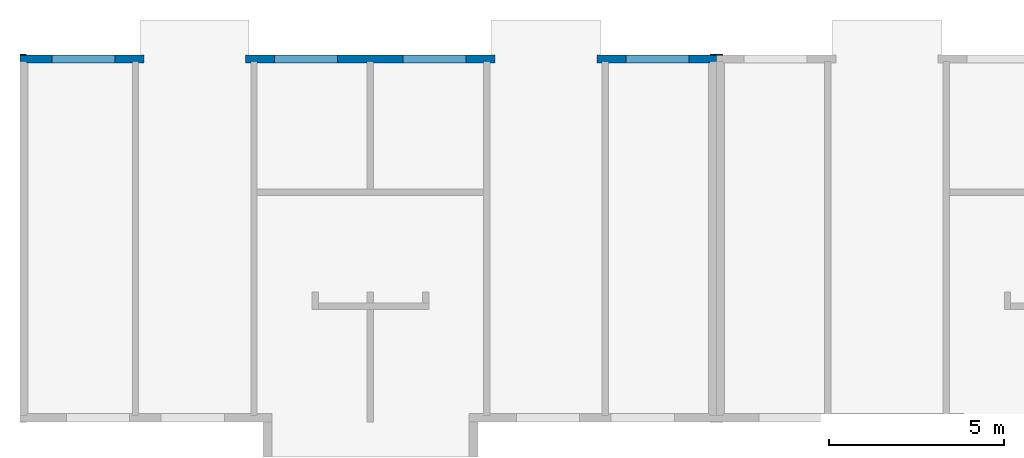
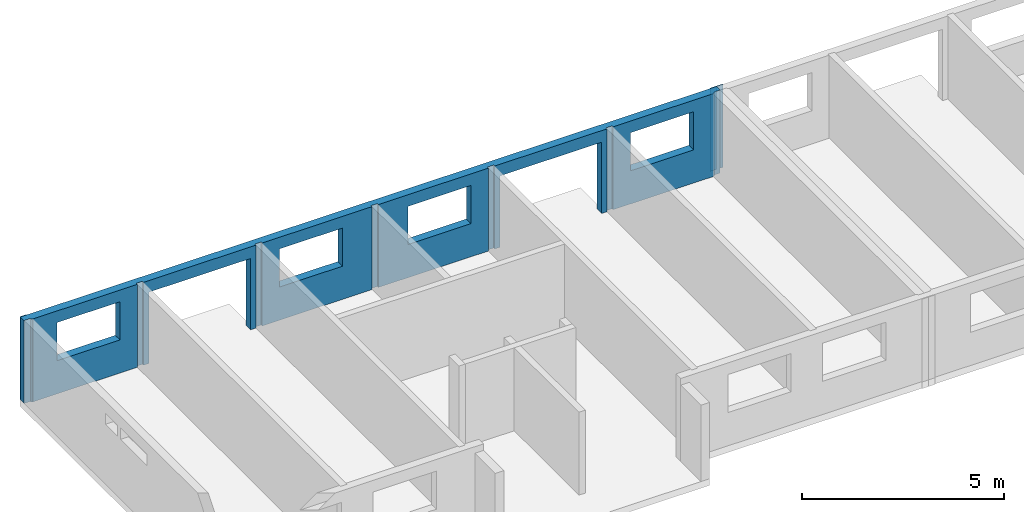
# One storey, part 5 of 9: 4 walls, 6 openings.
"""IFC2X3 building model written with IfcOpenShell, lengths in millimetres."""

from ifc_helpers import new_model, entity, si_unit, converted_unit, frame, frame_2d, origin, origin_with_axes, place, context, subcontext, project, spatial, polyline, rectangle, outline, extrude, material, layer, layer_set, layer_usage, element, save


model = new_model("IFC2X3")

# Units and contexts
model_context = context("Model", 3, precision=1e-05, world=origin())
plan_context = context("Plan", 3, precision=1e-05, world=origin())
body_context = subcontext(model_context, "Body", "Model", "MODEL_VIEW")
ifc_project = project(units=[si_unit("LENGTHUNIT", "METRE", prefix="MILLI"), converted_unit("PLANEANGLEUNIT", "DEGREE", entity("IfcPlaneAngleMeasure", 0.0174532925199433), si_unit("PLANEANGLEUNIT", "RADIAN"), dimensions=[0, 0, 0, 0, 0, 0, 0]), si_unit("AREAUNIT", "SQUARE_METRE"), si_unit("VOLUMEUNIT", "CUBIC_METRE")], contexts=[model_context, plan_context])

# Building, storey
building_placement = place(None, origin())
building = spatial("IfcBuilding", under=ifc_project, at=building_placement, Name="Bâtiment", CompositionType="ELEMENT")
storey_placement = place(building_placement, origin_with_axes())
storey = spatial("IfcBuildingStorey", under=building, at=storey_placement, Name="rdc", CompositionType="ELEMENT", Elevation=0.0)

# Wall, openings
ifc_material_1 = material(Name="moellons")
ifc_layer_1 = layer(ifc_material_1, 180.0)
ifc_material_2 = material(Name="briquettes")
ifc_layer_2 = layer(ifc_material_2, 40.0)
ifc_material_3 = material(Name="enduit platre")
ifc_layer_3 = layer(ifc_material_3, 10.0)
ifc_layer_set_1 = layer_set([ifc_layer_1, ifc_layer_2, ifc_layer_3])
ifc_layer_usage_1 = layer_usage(ifc_layer_set_1, "AXIS2", "POSITIVE", 0.0)
wall_1_placement = place(storey_placement, frame((19849.99999999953, 10470.07776548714, 0.0), z_axis=(0.0, 0.0, 1.0), x_axis=(-1.0, 9.163674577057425e-17, 0.0)))
wall_1 = element("IfcWallStandardCase", 1, at=wall_1_placement, inside=storey, material=ifc_layer_usage_1, context=body_context, shape_type="SweptSolid", body=[
    extrude(outline(polyline([(16649.99999999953, 179.9999999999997), (16469.99999999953, 179.9999999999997), (16469.99999999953, 229.9999999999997), (13269.99999999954, 229.9999999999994), (13269.99999999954, 179.9999999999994), (13089.99999999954, 179.9999999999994), (13089.99999999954, 229.9999999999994), (9954.999999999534, 230.0000000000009), (9954.999999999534, 180.0000000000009), (9774.999999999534, 180.0000000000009), (9774.999999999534, 230.0000000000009), (6640.000061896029, 230.0000000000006), (6640.000061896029, 180.0000000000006), (6460.000061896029, 180.0000000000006), (6460.000061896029, 230.0000000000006), (3259.999999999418, 230.0000000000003), (3259.999999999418, 180.0000000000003), (3079.999999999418, 180.0000000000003), (3079.999999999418, 230.0000000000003), (220.0, 230.0), (220.0, 220.0), (180.0, 220.0), (180.0, 180.0), (-1.649461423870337e-14, 180.0), (0.0, 0.0), (19849.99999999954, 0.0), (19849.99999999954, 180.0), (19669.99999999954, 180.0), (19669.99999999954, 220.0), (19629.99999999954, 220.0), (19629.99999999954, 230.0), (16649.99999999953, 229.9999999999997), (16649.99999999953, 179.9999999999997)])), origin_with_axes(), (0.0, 0.0, 1.0), 2500.0),
])
opening_1_placement = place(wall_1_placement, frame((17144.9999999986, -1.818989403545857e-12, 1000.0), z_axis=(0.0, 1.0, 0.0), x_axis=(0.0, 0.0, 1.0)))
element("IfcOpeningElement", 2, at=opening_1_placement, cuts=wall_1, Name="Baie de fenêtre", ObjectType="Opening", context=body_context, shape_type="SweptSolid", body=[
    extrude(rectangle(XDim=1150.0, YDim=1800.0, at=frame_2d((575.0, 900.0), x_axis=(1.0, 0.0))), origin_with_axes(), (0.0, 0.0, 1.0), 230.0),
])
opening_2_placement = place(wall_1_placement, frame((10794.99999999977, -1.818989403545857e-12, 1000.0), z_axis=(0.0, 1.0, 0.0), x_axis=(0.0, 0.0, 1.0)))
element("IfcOpeningElement", 3, at=opening_2_placement, cuts=wall_1, Name="Baie de fenêtre", ObjectType="Opening", context=body_context, shape_type="SweptSolid", body=[
    extrude(rectangle(XDim=1150.0, YDim=1799.999999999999, at=frame_2d((575.0, 899.9999999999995), x_axis=(1.0, 0.0))), origin_with_axes(), (0.0, 0.0, 1.0), 230.0),
])
opening_3_placement = place(wall_1_placement, frame((7134.999999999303, 0.0, 1000.0), z_axis=(0.0, 1.0, 0.0), x_axis=(0.0, 0.0, 1.0)))
element("IfcOpeningElement", 4, at=opening_3_placement, cuts=wall_1, Name="Baie de fenêtre", ObjectType="Opening", context=body_context, shape_type="SweptSolid", body=[
    extrude(rectangle(XDim=1150.0, YDim=1800.0, at=frame_2d((575.0, 900.0), x_axis=(1.0, 0.0))), origin_with_axes(), (0.0, 0.0, 1.0), 230.0),
])
opening_4_placement = place(wall_1_placement, frame((784.9999999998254, 0.0, 1000.0), z_axis=(0.0, 1.0, 0.0), x_axis=(0.0, 0.0, 1.0)))
element("IfcOpeningElement", 5, at=opening_4_placement, cuts=wall_1, Name="Baie de fenêtre", ObjectType="Opening", context=body_context, shape_type="SweptSolid", body=[
    extrude(rectangle(XDim=1150.0, YDim=1800.0, at=frame_2d((575.0, 900.0), x_axis=(1.0, 0.0))), origin_with_axes(), (0.0, 0.0, 1.0), 230.0),
])
opening_5_placement = place(wall_1_placement, frame((13419.62981094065, -1.818989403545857e-12, 0.0), z_axis=(0.0, 1.0, 0.0), x_axis=(0.0, 0.0, 1.0)))
element("IfcOpeningElement", 6, at=opening_5_placement, cuts=wall_1, Name="Baie de porte", ObjectType="Opening", context=body_context, shape_type="SweptSolid", body=[
    extrude(rectangle(XDim=2150.0, YDim=2900.0, at=frame_2d((1075.0, 1450.0), x_axis=(1.0, 0.0))), origin_with_axes(), (0.0, 0.0, 1.0), 230.0),
])
opening_6_placement = place(wall_1_placement, frame((3410.031276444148, 0.0, 0.0), z_axis=(0.0, 1.0, 0.0), x_axis=(0.0, 0.0, 1.0)))
element("IfcOpeningElement", 7, at=opening_6_placement, cuts=wall_1, Name="Baie de porte", ObjectType="Opening", context=body_context, shape_type="SweptSolid", body=[
    extrude(rectangle(XDim=2150.0, YDim=2900.0, at=frame_2d((1075.0, 1450.0), x_axis=(1.0, 0.0))), origin_with_axes(), (0.0, 0.0, 1.0), 230.0),
])

# Walls
ifc_material_4 = material(Name="moellons")
ifc_layer_4 = layer(ifc_material_4, 19.99999999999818)
ifc_layer_set_2 = layer_set([ifc_layer_4])
ifc_layer_usage_2 = layer_usage(ifc_layer_set_2, "AXIS2", "POSITIVE", 0.0)
wall_2_placement = place(storey_placement, frame((-3.636754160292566e-12, 10490.07776548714, 0.0), z_axis=(0.0, 0.0, 1.0), x_axis=(1.0, 0.0, 0.0)))
element("IfcWallStandardCase", 8, at=wall_2_placement, inside=storey, material=ifc_layer_usage_2, context=body_context, shape_type="SweptSolid", body=[
    extrude(rectangle(XDim=180.0, YDim=19.99999999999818, at=frame_2d((90.0, 9.99999999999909), x_axis=(1.0, 0.0))), frame((-1.2246467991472e-15, -19.99999999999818, 0.0), z_axis=(0.0, 0.0, 1.0), x_axis=(1.0, 0.0, 0.0)), (0.0, 0.0, 1.0), 2500.0),
])
ifc_material_5 = material(Name="moellons")
ifc_layer_5 = layer(ifc_material_5, 20.0)
ifc_layer_set_3 = layer_set([ifc_layer_5])
ifc_layer_usage_3 = layer_usage(ifc_layer_set_3, "AXIS2", "POSITIVE", 0.0)
wall_3_placement = place(storey_placement, frame((19849.99999999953, 10490.07776548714, 0.0), z_axis=(0.0, 0.0, 1.0), x_axis=(1.0, 0.0, 0.0)))
element("IfcWallStandardCase", 9, at=wall_3_placement, inside=storey, material=ifc_layer_usage_3, context=body_context, shape_type="SweptSolid", body=[
    extrude(rectangle(XDim=180.0, YDim=20.0, at=frame_2d((90.0, 10.0), x_axis=(1.0, 0.0))), frame((0.0, -20.0, 0.0), z_axis=(0.0, 0.0, 1.0), x_axis=(1.0, 0.0, 0.0)), (0.0, 0.0, 1.0), 2500.0),
])
ifc_material_6 = material(Name="moellons")
ifc_layer_6 = layer(ifc_material_6, 20.00000000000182)
ifc_layer_set_4 = layer_set([ifc_layer_6])
ifc_layer_usage_4 = layer_usage(ifc_layer_set_4, "AXIS2", "POSITIVE", 0.0)
wall_4_placement = place(storey_placement, frame((19849.99999999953, 10470.07776548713, 0.0), z_axis=(0.0, 0.0, 1.0), x_axis=(-1.0, 0.0, 0.0)))
element("IfcWallStandardCase", 10, at=wall_4_placement, inside=storey, material=ifc_layer_usage_4, context=body_context, shape_type="SweptSolid", body=[
    extrude(rectangle(XDim=180.0, YDim=20.00000000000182, at=frame_2d((90.0, 10.00000000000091), x_axis=(1.0, 0.0))), frame((0.0, -20.00000000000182, 0.0), z_axis=(0.0, 0.0, 1.0), x_axis=(1.0, 0.0, 0.0)), (0.0, 0.0, 1.0), 2500.0),
])

save(model, "model.ifc")
